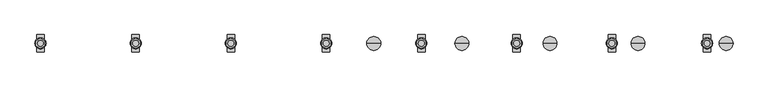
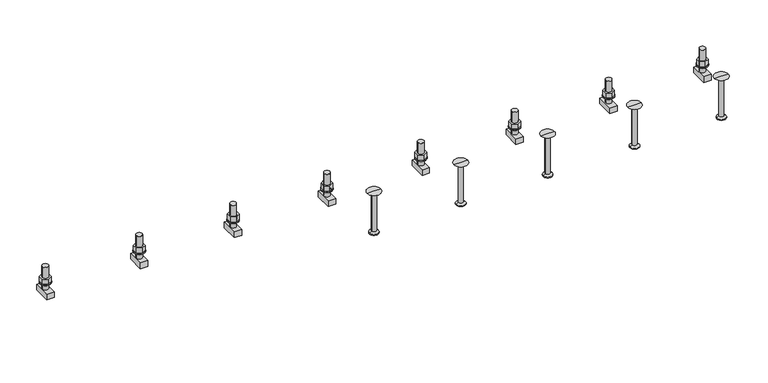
"""IFC4 building model written with IfcOpenShell, lengths in millimetres: fastener geometry, JTA-K JORDAHL® AnchorChannels : JTA-K L=3000 mm."""

from ifc_helpers import new_model, si_unit, point, frame, frame_2d, origin, place, context, project, spatial, polyline, circle_curve, trimmed, segment, composite_curve, outline, extrude, source, transform, mapped, element, save
from ifc_brep_helpers import plane_surface, cylinder_surface, revolved_surface, advanced_brep


def fastener_14b91d63(model_context):
    return source(origin(), model_context, "Body", "SolidModel", [
        extrude(outline(polyline([(2608.3333333, -17.3205081), (2593.3333333, -8.660254), (2593.3333333, 8.660254), (2608.3333333, 17.3205081), (2623.3333333, 8.660254), (2623.3333333, -8.660254), (2608.3333333, -17.3205081)]), holes=[composite_curve([segment(trimmed(circle_curve(frame_2d((2608.3333333, 0.0)), 10.0), [point((2598.3333333, 0.0))], [point((2618.3333333, 0.0))], True, "CARTESIAN"), True, "CONTINUOUS"), segment(trimmed(circle_curve(frame_2d((2608.3333333, 0.0)), 10.0), [point((2618.3333333, 0.0))], [point((2598.3333333, 0.0))], True, "CARTESIAN"), True, "CONTINUOUS")], self_intersect=False)]), frame((0.0, 0.0, 18.0), z_axis=(0.0, 0.0, 1.0), x_axis=(1.0, 0.0, 0.0)), (0.0, 0.0, 1.0), 18.0),
        extrude(outline(composite_curve([segment(trimmed(circle_curve(frame_2d((2608.3333333, 0.0)), 18.5), [point((2589.8333333, 0.0))], [point((2626.8333333, 0.0))], False, "CARTESIAN"), True, "CONTINUOUS"), segment(trimmed(circle_curve(frame_2d((2608.3333333, 0.0)), 18.5), [point((2626.8333333, 0.0))], [point((2589.8333333, 0.0))], False, "CARTESIAN"), True, "CONTINUOUS")], self_intersect=False), holes=[composite_curve([segment(trimmed(circle_curve(frame_2d((2608.3333333, 0.0)), 10.5), [point((2597.8333333, 0.0))], [point((2618.8333333, 0.0))], True, "CARTESIAN"), True, "CONTINUOUS"), segment(trimmed(circle_curve(frame_2d((2608.3333333, 0.0)), 10.5), [point((2618.8333333, 0.0))], [point((2597.8333333, 0.0))], True, "CARTESIAN"), True, "CONTINUOUS")], self_intersect=False)]), frame((0.0, 0.0, 15.0), z_axis=(0.0, 0.0, 1.0), x_axis=(1.0, 0.0, 0.0)), (0.0, 0.0, 1.0), 3.0),
        extrude(outline(polyline([(2291.6666667, -17.3205081), (2276.6666667, -8.660254), (2276.6666667, 8.660254), (2291.6666667, 17.3205081), (2306.6666667, 8.660254), (2306.6666667, -8.660254), (2291.6666667, -17.3205081)]), holes=[composite_curve([segment(trimmed(circle_curve(frame_2d((2291.6666667, 0.0)), 10.0), [point((2281.6666667, 0.0))], [point((2301.6666667, 0.0))], True, "CARTESIAN"), True, "CONTINUOUS"), segment(trimmed(circle_curve(frame_2d((2291.6666667, 0.0)), 10.0), [point((2301.6666667, 0.0))], [point((2281.6666667, 0.0))], True, "CARTESIAN"), True, "CONTINUOUS")], self_intersect=False)]), frame((0.0, 0.0, 18.0), z_axis=(0.0, 0.0, 1.0), x_axis=(1.0, 0.0, 0.0)), (0.0, 0.0, 1.0), 18.0),
        extrude(outline(composite_curve([segment(trimmed(circle_curve(frame_2d((2291.6666667, 0.0)), 18.5), [point((2273.1666667, 0.0))], [point((2310.1666667, 0.0))], False, "CARTESIAN"), True, "CONTINUOUS"), segment(trimmed(circle_curve(frame_2d((2291.6666667, 0.0)), 18.5), [point((2310.1666667, 0.0))], [point((2273.1666667, 0.0))], False, "CARTESIAN"), True, "CONTINUOUS")], self_intersect=False), holes=[composite_curve([segment(trimmed(circle_curve(frame_2d((2291.6666667, 0.0)), 10.5), [point((2281.1666667, 0.0))], [point((2302.1666667, 0.0))], True, "CARTESIAN"), True, "CONTINUOUS"), segment(trimmed(circle_curve(frame_2d((2291.6666667, 0.0)), 10.5), [point((2302.1666667, 0.0))], [point((2281.1666667, 0.0))], True, "CARTESIAN"), True, "CONTINUOUS")], self_intersect=False)]), frame((0.0, 0.0, 15.0), z_axis=(0.0, 0.0, 1.0), x_axis=(1.0, 0.0, 0.0)), (0.0, 0.0, 1.0), 3.0),
        extrude(outline(polyline([(1975.0, -17.3205081), (1960.0, -8.660254), (1960.0, 8.660254), (1975.0, 17.3205081), (1990.0, 8.660254), (1990.0, -8.660254), (1975.0, -17.3205081)]), holes=[composite_curve([segment(trimmed(circle_curve(frame_2d((1975.0, 0.0)), 10.0), [point((1965.0, 0.0))], [point((1985.0, 0.0))], True, "CARTESIAN"), True, "CONTINUOUS"), segment(trimmed(circle_curve(frame_2d((1975.0, 0.0)), 10.0), [point((1985.0, 0.0))], [point((1965.0, 0.0))], True, "CARTESIAN"), True, "CONTINUOUS")], self_intersect=False)]), frame((0.0, 0.0, 18.0), z_axis=(0.0, 0.0, 1.0), x_axis=(1.0, 0.0, 0.0)), (0.0, 0.0, 1.0), 18.0),
        extrude(outline(composite_curve([segment(trimmed(circle_curve(frame_2d((1975.0, 0.0)), 18.5), [point((1956.5, 0.0))], [point((1993.5, 0.0))], False, "CARTESIAN"), True, "CONTINUOUS"), segment(trimmed(circle_curve(frame_2d((1975.0, 0.0)), 18.5), [point((1993.5, 0.0))], [point((1956.5, 0.0))], False, "CARTESIAN"), True, "CONTINUOUS")], self_intersect=False), holes=[composite_curve([segment(trimmed(circle_curve(frame_2d((1975.0, 0.0)), 10.5), [point((1964.5, 0.0))], [point((1985.5, 0.0))], True, "CARTESIAN"), True, "CONTINUOUS"), segment(trimmed(circle_curve(frame_2d((1975.0, 0.0)), 10.5), [point((1985.5, 0.0))], [point((1964.5, 0.0))], True, "CARTESIAN"), True, "CONTINUOUS")], self_intersect=False)]), frame((0.0, 0.0, 15.0), z_axis=(0.0, 0.0, 1.0), x_axis=(1.0, 0.0, 0.0)), (0.0, 0.0, 1.0), 3.0),
        extrude(outline(polyline([(1658.3333333, -17.3205081), (1643.3333333, -8.660254), (1643.3333333, 8.660254), (1658.3333333, 17.3205081), (1673.3333333, 8.660254), (1673.3333333, -8.660254), (1658.3333333, -17.3205081)]), holes=[composite_curve([segment(trimmed(circle_curve(frame_2d((1658.3333333, 0.0)), 10.0), [point((1648.3333333, 0.0))], [point((1668.3333333, 0.0))], True, "CARTESIAN"), True, "CONTINUOUS"), segment(trimmed(circle_curve(frame_2d((1658.3333333, 0.0)), 10.0), [point((1668.3333333, 0.0))], [point((1648.3333333, 0.0))], True, "CARTESIAN"), True, "CONTINUOUS")], self_intersect=False)]), frame((0.0, 0.0, 18.0), z_axis=(0.0, 0.0, 1.0), x_axis=(1.0, 0.0, 0.0)), (0.0, 0.0, 1.0), 18.0),
        extrude(outline(composite_curve([segment(trimmed(circle_curve(frame_2d((1658.3333333, 0.0)), 18.5), [point((1639.8333333, 0.0))], [point((1676.8333333, 0.0))], False, "CARTESIAN"), True, "CONTINUOUS"), segment(trimmed(circle_curve(frame_2d((1658.3333333, 0.0)), 18.5), [point((1676.8333333, 0.0))], [point((1639.8333333, 0.0))], False, "CARTESIAN"), True, "CONTINUOUS")], self_intersect=False), holes=[composite_curve([segment(trimmed(circle_curve(frame_2d((1658.3333333, 0.0)), 10.5), [point((1647.8333333, 0.0))], [point((1668.8333333, 0.0))], True, "CARTESIAN"), True, "CONTINUOUS"), segment(trimmed(circle_curve(frame_2d((1658.3333333, 0.0)), 10.5), [point((1668.8333333, 0.0))], [point((1647.8333333, 0.0))], True, "CARTESIAN"), True, "CONTINUOUS")], self_intersect=False)]), frame((0.0, 0.0, 15.0), z_axis=(0.0, 0.0, 1.0), x_axis=(1.0, 0.0, 0.0)), (0.0, 0.0, 1.0), 3.0),
        extrude(outline(polyline([(1341.6666667, -17.3205081), (1326.6666667, -8.660254), (1326.6666667, 8.660254), (1341.6666667, 17.3205081), (1356.6666667, 8.660254), (1356.6666667, -8.660254), (1341.6666667, -17.3205081)]), holes=[composite_curve([segment(trimmed(circle_curve(frame_2d((1341.6666667, 0.0)), 10.0), [point((1331.6666667, 0.0))], [point((1351.6666667, 0.0))], True, "CARTESIAN"), True, "CONTINUOUS"), segment(trimmed(circle_curve(frame_2d((1341.6666667, 0.0)), 10.0), [point((1351.6666667, 0.0))], [point((1331.6666667, 0.0))], True, "CARTESIAN"), True, "CONTINUOUS")], self_intersect=False)]), frame((0.0, 0.0, 18.0), z_axis=(0.0, 0.0, 1.0), x_axis=(1.0, 0.0, 0.0)), (0.0, 0.0, 1.0), 18.0),
        extrude(outline(composite_curve([segment(trimmed(circle_curve(frame_2d((1341.6666667, 0.0)), 18.5), [point((1323.1666667, 0.0))], [point((1360.1666667, 0.0))], False, "CARTESIAN"), True, "CONTINUOUS"), segment(trimmed(circle_curve(frame_2d((1341.6666667, 0.0)), 18.5), [point((1360.1666667, 0.0))], [point((1323.1666667, 0.0))], False, "CARTESIAN"), True, "CONTINUOUS")], self_intersect=False), holes=[composite_curve([segment(trimmed(circle_curve(frame_2d((1341.6666667, 0.0)), 10.5), [point((1331.1666667, 0.0))], [point((1352.1666667, 0.0))], True, "CARTESIAN"), True, "CONTINUOUS"), segment(trimmed(circle_curve(frame_2d((1341.6666667, 0.0)), 10.5), [point((1352.1666667, 0.0))], [point((1331.1666667, 0.0))], True, "CARTESIAN"), True, "CONTINUOUS")], self_intersect=False)]), frame((0.0, 0.0, 15.0), z_axis=(0.0, 0.0, 1.0), x_axis=(1.0, 0.0, 0.0)), (0.0, 0.0, 1.0), 3.0),
        extrude(outline(polyline([(1025.0, -17.3205081), (1010.0, -8.660254), (1010.0, 8.660254), (1025.0, 17.3205081), (1040.0, 8.660254), (1040.0, -8.660254), (1025.0, -17.3205081)]), holes=[composite_curve([segment(trimmed(circle_curve(frame_2d((1025.0, 0.0)), 10.0), [point((1015.0, 0.0))], [point((1035.0, 0.0))], True, "CARTESIAN"), True, "CONTINUOUS"), segment(trimmed(circle_curve(frame_2d((1025.0, 0.0)), 10.0), [point((1035.0, 0.0))], [point((1015.0, 0.0))], True, "CARTESIAN"), True, "CONTINUOUS")], self_intersect=False)]), frame((0.0, 0.0, 18.0), z_axis=(0.0, 0.0, 1.0), x_axis=(1.0, 0.0, 0.0)), (0.0, 0.0, 1.0), 18.0),
        extrude(outline(composite_curve([segment(trimmed(circle_curve(frame_2d((1025.0, 0.0)), 18.5), [point((1006.5, 0.0))], [point((1043.5, 0.0))], False, "CARTESIAN"), True, "CONTINUOUS"), segment(trimmed(circle_curve(frame_2d((1025.0, 0.0)), 18.5), [point((1043.5, 0.0))], [point((1006.5, 0.0))], False, "CARTESIAN"), True, "CONTINUOUS")], self_intersect=False), holes=[composite_curve([segment(trimmed(circle_curve(frame_2d((1025.0, 0.0)), 10.5), [point((1014.5, 0.0))], [point((1035.5, 0.0))], True, "CARTESIAN"), True, "CONTINUOUS"), segment(trimmed(circle_curve(frame_2d((1025.0, 0.0)), 10.5), [point((1035.5, 0.0))], [point((1014.5, 0.0))], True, "CARTESIAN"), True, "CONTINUOUS")], self_intersect=False)]), frame((0.0, 0.0, 15.0), z_axis=(0.0, 0.0, 1.0), x_axis=(1.0, 0.0, 0.0)), (0.0, 0.0, 1.0), 3.0),
        extrude(outline(polyline([(708.3333333, -17.3205081), (693.3333333, -8.660254), (693.3333333, 8.660254), (708.3333333, 17.3205081), (723.3333333, 8.660254), (723.3333333, -8.660254), (708.3333333, -17.3205081)]), holes=[composite_curve([segment(trimmed(circle_curve(frame_2d((708.3333333, 0.0)), 10.0), [point((698.3333333, 0.0))], [point((718.3333333, 0.0))], True, "CARTESIAN"), True, "CONTINUOUS"), segment(trimmed(circle_curve(frame_2d((708.3333333, 0.0)), 10.0), [point((718.3333333, 0.0))], [point((698.3333333, 0.0))], True, "CARTESIAN"), True, "CONTINUOUS")], self_intersect=False)]), frame((0.0, 0.0, 18.0), z_axis=(0.0, 0.0, 1.0), x_axis=(1.0, 0.0, 0.0)), (0.0, 0.0, 1.0), 18.0),
        extrude(outline(composite_curve([segment(trimmed(circle_curve(frame_2d((708.3333333, 0.0)), 18.5), [point((689.8333333, 0.0))], [point((726.8333333, 0.0))], False, "CARTESIAN"), True, "CONTINUOUS"), segment(trimmed(circle_curve(frame_2d((708.3333333, 0.0)), 18.5), [point((726.8333333, 0.0))], [point((689.8333333, 0.0))], False, "CARTESIAN"), True, "CONTINUOUS")], self_intersect=False), holes=[composite_curve([segment(trimmed(circle_curve(frame_2d((708.3333333, 0.0)), 10.5), [point((697.8333333, 0.0))], [point((718.8333333, 0.0))], True, "CARTESIAN"), True, "CONTINUOUS"), segment(trimmed(circle_curve(frame_2d((708.3333333, 0.0)), 10.5), [point((718.8333333, 0.0))], [point((697.8333333, 0.0))], True, "CARTESIAN"), True, "CONTINUOUS")], self_intersect=False)]), frame((0.0, 0.0, 15.0), z_axis=(0.0, 0.0, 1.0), x_axis=(1.0, 0.0, 0.0)), (0.0, 0.0, 1.0), 3.0),
        extrude(outline(polyline([(391.6666667, -17.3205081), (376.6666667, -8.660254), (376.6666667, 8.660254), (391.6666667, 17.3205081), (406.6666667, 8.660254), (406.6666667, -8.660254), (391.6666667, -17.3205081)]), holes=[composite_curve([segment(trimmed(circle_curve(frame_2d((391.6666667, 0.0)), 10.0), [point((381.6666667, 0.0))], [point((401.6666667, 0.0))], True, "CARTESIAN"), True, "CONTINUOUS"), segment(trimmed(circle_curve(frame_2d((391.6666667, 0.0)), 10.0), [point((401.6666667, 0.0))], [point((381.6666667, 0.0))], True, "CARTESIAN"), True, "CONTINUOUS")], self_intersect=False)]), frame((0.0, 0.0, 18.0), z_axis=(0.0, 0.0, 1.0), x_axis=(1.0, 0.0, 0.0)), (0.0, 0.0, 1.0), 18.0),
        extrude(outline(composite_curve([segment(trimmed(circle_curve(frame_2d((391.6666667, 0.0)), 18.5), [point((373.1666667, 0.0))], [point((410.1666667, 0.0))], False, "CARTESIAN"), True, "CONTINUOUS"), segment(trimmed(circle_curve(frame_2d((391.6666667, 0.0)), 18.5), [point((410.1666667, 0.0))], [point((373.1666667, 0.0))], False, "CARTESIAN"), True, "CONTINUOUS")], self_intersect=False), holes=[composite_curve([segment(trimmed(circle_curve(frame_2d((391.6666667, 0.0)), 10.5), [point((381.1666667, 0.0))], [point((402.1666667, 0.0))], True, "CARTESIAN"), True, "CONTINUOUS"), segment(trimmed(circle_curve(frame_2d((391.6666667, 0.0)), 10.5), [point((402.1666667, 0.0))], [point((381.1666667, 0.0))], True, "CARTESIAN"), True, "CONTINUOUS")], self_intersect=False)]), frame((0.0, 0.0, 15.0), z_axis=(0.0, 0.0, 1.0), x_axis=(1.0, 0.0, 0.0)), (0.0, 0.0, 1.0), 3.0),
        advanced_brep(
        [(2620.8333333, -29.0, -6.0), (2620.8333333, -29.0, -26.0), (2620.8333333, 29.0, -26.0), (2620.8333333, 29.0, -6.0), (2595.8333333, -29.0, -6.0), (2595.8333333, 29.0, -6.0), (2595.8333333, 29.0, -26.0), (2595.8333333, -29.0, -26.0), (2618.3333333, 0.0, -6.0), (2598.3333333, 0.0, -6.0), (2598.3333333, 0.0, 74.0), (2618.3333333, 0.0, 74.0)],
        [
            (0, 1),
            (1, 2),
            (2, 3),
            (3, 0),
            (4, 5),
            (5, 6),
            (6, 7),
            (7, 4),
            (3, 5),
            (4, 0),
            (8, 9, circle_curve(frame((2608.3333333, 0.0, -6.0), z_axis=(0.0, 0.0, -1.0), x_axis=(1.0, 0.0, 0.0)), 10.0)),
            (9, 8, circle_curve(frame((2608.3333333, 0.0, -6.0), z_axis=(0.0, 0.0, -1.0), x_axis=(1.0, 0.0, 0.0)), 10.0)),
            (2, 6),
            (1, 7),
            (10, 11, circle_curve(frame((2608.3333333, 0.0, 74.0), z_axis=(0.0, 0.0, 1.0), x_axis=(1.0, 0.0, 0.0)), 10.0)),
            (11, 10, circle_curve(frame((2608.3333333, 0.0, 74.0), z_axis=(0.0, 0.0, 1.0), x_axis=(1.0, 0.0, 0.0)), 10.0)),
            (11, 8),
            (9, 10),
        ],
        [
            plane_surface(frame((2620.8333333, 29.0, -6.0), z_axis=(1.0, 0.0, 0.0), x_axis=(0.0, 1.0, 0.0))),
            plane_surface(frame((2595.8333333, 29.0, -6.0), z_axis=(-1.0, 0.0, 0.0), x_axis=(0.0, -1.0, 0.0))),
            plane_surface(frame((2620.8333333, -29.0, -6.0), z_axis=(0.0, 0.0, 1.0), x_axis=(-1.0, 0.0, 0.0))),
            plane_surface(frame((2620.8333333, 29.0, -6.0), z_axis=(0.0, 1.0, 0.0), x_axis=(-1.0, 0.0, 0.0))),
            plane_surface(frame((2620.8333333, 29.0, -26.0), z_axis=(0.0, 0.0, -1.0), x_axis=(-1.0, 0.0, 0.0))),
            plane_surface(frame((2620.8333333, -29.0, -26.0), z_axis=(0.0, -1.0, 0.0), x_axis=(-1.0, 0.0, 0.0))),
            plane_surface(frame((2618.3333333, 0.0, 74.0), z_axis=(0.0, 0.0, 1.0), x_axis=(0.0, -1.0, 0.0))),
            cylinder_surface(frame((2608.3333333, 0.0, -6.0), z_axis=(0.0, 0.0, 1.0), x_axis=(1.0, 0.0, 0.0)), 10.0),
        ],
        [
            (0, [[1, 2, 3, 4]]),
            (1, [[5, 6, 7, 8]]),
            (2, [[9, -5, 10, -4], [11, 12]]),
            (3, [[13, -6, -9, -3]]),
            (4, [[14, -7, -13, -2]]),
            (5, [[-10, -8, -14, -1]]),
            (6, [[15, 16]]),
            (7, [[17, -12, 18, -16]]),
            (7, [[-18, -11, -17, -15]]),
        ],
    ),
        advanced_brep(
        [(2304.1666667, -29.0, -6.0), (2304.1666667, -29.0, -26.0), (2304.1666667, 29.0, -26.0), (2304.1666667, 29.0, -6.0), (2279.1666667, -29.0, -6.0), (2279.1666667, 29.0, -6.0), (2279.1666667, 29.0, -26.0), (2279.1666667, -29.0, -26.0), (2301.6666667, 0.0, -6.0), (2281.6666667, 0.0, -6.0), (2281.6666667, 0.0, 74.0), (2301.6666667, 0.0, 74.0)],
        [
            (0, 1),
            (1, 2),
            (2, 3),
            (3, 0),
            (4, 5),
            (5, 6),
            (6, 7),
            (7, 4),
            (3, 5),
            (4, 0),
            (8, 9, circle_curve(frame((2291.6666667, 0.0, -6.0), z_axis=(0.0, 0.0, -1.0), x_axis=(1.0, 0.0, 0.0)), 10.0)),
            (9, 8, circle_curve(frame((2291.6666667, 0.0, -6.0), z_axis=(0.0, 0.0, -1.0), x_axis=(1.0, 0.0, 0.0)), 10.0)),
            (2, 6),
            (1, 7),
            (10, 11, circle_curve(frame((2291.6666667, 0.0, 74.0), z_axis=(0.0, 0.0, 1.0), x_axis=(1.0, 0.0, 0.0)), 10.0)),
            (11, 10, circle_curve(frame((2291.6666667, 0.0, 74.0), z_axis=(0.0, 0.0, 1.0), x_axis=(1.0, 0.0, 0.0)), 10.0)),
            (11, 8),
            (9, 10),
        ],
        [
            plane_surface(frame((2304.1666667, 29.0, -6.0), z_axis=(1.0, 0.0, 0.0), x_axis=(0.0, 1.0, 0.0))),
            plane_surface(frame((2279.1666667, 29.0, -6.0), z_axis=(-1.0, 0.0, 0.0), x_axis=(0.0, -1.0, 0.0))),
            plane_surface(frame((2304.1666667, -29.0, -6.0), z_axis=(0.0, 0.0, 1.0), x_axis=(-1.0, 0.0, 0.0))),
            plane_surface(frame((2304.1666667, 29.0, -6.0), z_axis=(0.0, 1.0, 0.0), x_axis=(-1.0, 0.0, 0.0))),
            plane_surface(frame((2304.1666667, 29.0, -26.0), z_axis=(0.0, 0.0, -1.0), x_axis=(-1.0, 0.0, 0.0))),
            plane_surface(frame((2304.1666667, -29.0, -26.0), z_axis=(0.0, -1.0, 0.0), x_axis=(-1.0, 0.0, 0.0))),
            plane_surface(frame((2301.6666667, 0.0, 74.0), z_axis=(0.0, 0.0, 1.0), x_axis=(0.0, -1.0, 0.0))),
            cylinder_surface(frame((2291.6666667, 0.0, -6.0), z_axis=(0.0, 0.0, 1.0), x_axis=(1.0, 0.0, 0.0)), 10.0),
        ],
        [
            (0, [[1, 2, 3, 4]]),
            (1, [[5, 6, 7, 8]]),
            (2, [[9, -5, 10, -4], [11, 12]]),
            (3, [[13, -6, -9, -3]]),
            (4, [[14, -7, -13, -2]]),
            (5, [[-10, -8, -14, -1]]),
            (6, [[15, 16]]),
            (7, [[17, -12, 18, -16]]),
            (7, [[-18, -11, -17, -15]]),
        ],
    ),
        advanced_brep(
        [(1987.5, -29.0, -6.0), (1987.5, -29.0, -26.0), (1987.5, 29.0, -26.0), (1987.5, 29.0, -6.0), (1962.5, -29.0, -6.0), (1962.5, 29.0, -6.0), (1962.5, 29.0, -26.0), (1962.5, -29.0, -26.0), (1985.0, 0.0, -6.0), (1965.0, 0.0, -6.0), (1965.0, 0.0, 74.0), (1985.0, 0.0, 74.0)],
        [
            (0, 1),
            (1, 2),
            (2, 3),
            (3, 0),
            (4, 5),
            (5, 6),
            (6, 7),
            (7, 4),
            (3, 5),
            (4, 0),
            (8, 9, circle_curve(frame((1975.0, 0.0, -6.0), z_axis=(0.0, 0.0, -1.0), x_axis=(1.0, 0.0, 0.0)), 10.0)),
            (9, 8, circle_curve(frame((1975.0, 0.0, -6.0), z_axis=(0.0, 0.0, -1.0), x_axis=(1.0, 0.0, 0.0)), 10.0)),
            (2, 6),
            (1, 7),
            (10, 11, circle_curve(frame((1975.0, 0.0, 74.0), z_axis=(0.0, 0.0, 1.0), x_axis=(1.0, 0.0, 0.0)), 10.0)),
            (11, 10, circle_curve(frame((1975.0, 0.0, 74.0), z_axis=(0.0, 0.0, 1.0), x_axis=(1.0, 0.0, 0.0)), 10.0)),
            (11, 8),
            (9, 10),
        ],
        [
            plane_surface(frame((1987.5, 29.0, -6.0), z_axis=(1.0, 0.0, 0.0), x_axis=(0.0, 1.0, 0.0))),
            plane_surface(frame((1962.5, 29.0, -6.0), z_axis=(-1.0, 0.0, 0.0), x_axis=(0.0, -1.0, 0.0))),
            plane_surface(frame((1987.5, -29.0, -6.0), z_axis=(0.0, 0.0, 1.0), x_axis=(-1.0, 0.0, 0.0))),
            plane_surface(frame((1987.5, 29.0, -6.0), z_axis=(0.0, 1.0, 0.0), x_axis=(-1.0, 0.0, 0.0))),
            plane_surface(frame((1987.5, 29.0, -26.0), z_axis=(0.0, 0.0, -1.0), x_axis=(-1.0, 0.0, 0.0))),
            plane_surface(frame((1987.5, -29.0, -26.0), z_axis=(0.0, -1.0, 0.0), x_axis=(-1.0, 0.0, 0.0))),
            plane_surface(frame((1985.0, 0.0, 74.0), z_axis=(0.0, 0.0, 1.0), x_axis=(0.0, -1.0, 0.0))),
            cylinder_surface(frame((1975.0, 0.0, -6.0), z_axis=(0.0, 0.0, 1.0), x_axis=(1.0, 0.0, 0.0)), 10.0),
        ],
        [
            (0, [[1, 2, 3, 4]]),
            (1, [[5, 6, 7, 8]]),
            (2, [[9, -5, 10, -4], [11, 12]]),
            (3, [[13, -6, -9, -3]]),
            (4, [[14, -7, -13, -2]]),
            (5, [[-10, -8, -14, -1]]),
            (6, [[15, 16]]),
            (7, [[17, -12, 18, -16]]),
            (7, [[-18, -11, -17, -15]]),
        ],
    ),
        advanced_brep(
        [(1670.8333333, -29.0, -6.0), (1670.8333333, -29.0, -26.0), (1670.8333333, 29.0, -26.0), (1670.8333333, 29.0, -6.0), (1645.8333333, -29.0, -6.0), (1645.8333333, 29.0, -6.0), (1645.8333333, 29.0, -26.0), (1645.8333333, -29.0, -26.0), (1668.3333333, 0.0, -6.0), (1648.3333333, 0.0, -6.0), (1648.3333333, 0.0, 74.0), (1668.3333333, 0.0, 74.0)],
        [
            (0, 1),
            (1, 2),
            (2, 3),
            (3, 0),
            (4, 5),
            (5, 6),
            (6, 7),
            (7, 4),
            (3, 5),
            (4, 0),
            (8, 9, circle_curve(frame((1658.3333333, 0.0, -6.0), z_axis=(0.0, 0.0, -1.0), x_axis=(1.0, 0.0, 0.0)), 10.0)),
            (9, 8, circle_curve(frame((1658.3333333, 0.0, -6.0), z_axis=(0.0, 0.0, -1.0), x_axis=(1.0, 0.0, 0.0)), 10.0)),
            (2, 6),
            (1, 7),
            (10, 11, circle_curve(frame((1658.3333333, 0.0, 74.0), z_axis=(0.0, 0.0, 1.0), x_axis=(1.0, 0.0, 0.0)), 10.0)),
            (11, 10, circle_curve(frame((1658.3333333, 0.0, 74.0), z_axis=(0.0, 0.0, 1.0), x_axis=(1.0, 0.0, 0.0)), 10.0)),
            (11, 8),
            (9, 10),
        ],
        [
            plane_surface(frame((1670.8333333, 29.0, -6.0), z_axis=(1.0, 0.0, 0.0), x_axis=(0.0, 1.0, 0.0))),
            plane_surface(frame((1645.8333333, 29.0, -6.0), z_axis=(-1.0, 0.0, 0.0), x_axis=(0.0, -1.0, 0.0))),
            plane_surface(frame((1670.8333333, -29.0, -6.0), z_axis=(0.0, 0.0, 1.0), x_axis=(-1.0, 0.0, 0.0))),
            plane_surface(frame((1670.8333333, 29.0, -6.0), z_axis=(0.0, 1.0, 0.0), x_axis=(-1.0, 0.0, 0.0))),
            plane_surface(frame((1670.8333333, 29.0, -26.0), z_axis=(0.0, 0.0, -1.0), x_axis=(-1.0, 0.0, 0.0))),
            plane_surface(frame((1670.8333333, -29.0, -26.0), z_axis=(0.0, -1.0, 0.0), x_axis=(-1.0, 0.0, 0.0))),
            plane_surface(frame((1668.3333333, 0.0, 74.0), z_axis=(0.0, 0.0, 1.0), x_axis=(0.0, -1.0, 0.0))),
            cylinder_surface(frame((1658.3333333, 0.0, -6.0), z_axis=(0.0, 0.0, 1.0), x_axis=(1.0, 0.0, 0.0)), 10.0),
        ],
        [
            (0, [[1, 2, 3, 4]]),
            (1, [[5, 6, 7, 8]]),
            (2, [[9, -5, 10, -4], [11, 12]]),
            (3, [[13, -6, -9, -3]]),
            (4, [[14, -7, -13, -2]]),
            (5, [[-10, -8, -14, -1]]),
            (6, [[15, 16]]),
            (7, [[17, -12, 18, -16]]),
            (7, [[-18, -11, -17, -15]]),
        ],
    ),
        advanced_brep(
        [(1354.1666667, -29.0, -6.0), (1354.1666667, -29.0, -26.0), (1354.1666667, 29.0, -26.0), (1354.1666667, 29.0, -6.0), (1329.1666667, -29.0, -6.0), (1329.1666667, 29.0, -6.0), (1329.1666667, 29.0, -26.0), (1329.1666667, -29.0, -26.0), (1351.6666667, 0.0, -6.0), (1331.6666667, 0.0, -6.0), (1331.6666667, 0.0, 74.0), (1351.6666667, 0.0, 74.0)],
        [
            (0, 1),
            (1, 2),
            (2, 3),
            (3, 0),
            (4, 5),
            (5, 6),
            (6, 7),
            (7, 4),
            (3, 5),
            (4, 0),
            (8, 9, circle_curve(frame((1341.6666667, 0.0, -6.0), z_axis=(0.0, 0.0, -1.0), x_axis=(1.0, 0.0, 0.0)), 10.0)),
            (9, 8, circle_curve(frame((1341.6666667, 0.0, -6.0), z_axis=(0.0, 0.0, -1.0), x_axis=(1.0, 0.0, 0.0)), 10.0)),
            (2, 6),
            (1, 7),
            (10, 11, circle_curve(frame((1341.6666667, 0.0, 74.0), z_axis=(0.0, 0.0, 1.0), x_axis=(1.0, 0.0, 0.0)), 10.0)),
            (11, 10, circle_curve(frame((1341.6666667, 0.0, 74.0), z_axis=(0.0, 0.0, 1.0), x_axis=(1.0, 0.0, 0.0)), 10.0)),
            (11, 8),
            (9, 10),
        ],
        [
            plane_surface(frame((1354.1666667, 29.0, -6.0), z_axis=(1.0, 0.0, 0.0), x_axis=(0.0, 1.0, 0.0))),
            plane_surface(frame((1329.1666667, 29.0, -6.0), z_axis=(-1.0, 0.0, 0.0), x_axis=(0.0, -1.0, 0.0))),
            plane_surface(frame((1354.1666667, -29.0, -6.0), z_axis=(0.0, 0.0, 1.0), x_axis=(-1.0, 0.0, 0.0))),
            plane_surface(frame((1354.1666667, 29.0, -6.0), z_axis=(0.0, 1.0, 0.0), x_axis=(-1.0, 0.0, 0.0))),
            plane_surface(frame((1354.1666667, 29.0, -26.0), z_axis=(0.0, 0.0, -1.0), x_axis=(-1.0, 0.0, 0.0))),
            plane_surface(frame((1354.1666667, -29.0, -26.0), z_axis=(0.0, -1.0, 0.0), x_axis=(-1.0, 0.0, 0.0))),
            plane_surface(frame((1351.6666667, 0.0, 74.0), z_axis=(0.0, 0.0, 1.0), x_axis=(0.0, -1.0, 0.0))),
            cylinder_surface(frame((1341.6666667, 0.0, -6.0), z_axis=(0.0, 0.0, 1.0), x_axis=(1.0, 0.0, 0.0)), 10.0),
        ],
        [
            (0, [[1, 2, 3, 4]]),
            (1, [[5, 6, 7, 8]]),
            (2, [[9, -5, 10, -4], [11, 12]]),
            (3, [[13, -6, -9, -3]]),
            (4, [[14, -7, -13, -2]]),
            (5, [[-10, -8, -14, -1]]),
            (6, [[15, 16]]),
            (7, [[17, -12, 18, -16]]),
            (7, [[-18, -11, -17, -15]]),
        ],
    ),
        advanced_brep(
        [(1037.5, -29.0, -6.0), (1037.5, -29.0, -26.0), (1037.5, 29.0, -26.0), (1037.5, 29.0, -6.0), (1012.5, -29.0, -6.0), (1012.5, 29.0, -6.0), (1012.5, 29.0, -26.0), (1012.5, -29.0, -26.0), (1035.0, 0.0, -6.0), (1015.0, 0.0, -6.0), (1015.0, 0.0, 74.0), (1035.0, 0.0, 74.0)],
        [
            (0, 1),
            (1, 2),
            (2, 3),
            (3, 0),
            (4, 5),
            (5, 6),
            (6, 7),
            (7, 4),
            (3, 5),
            (4, 0),
            (8, 9, circle_curve(frame((1025.0, 0.0, -6.0), z_axis=(0.0, 0.0, -1.0), x_axis=(1.0, 0.0, 0.0)), 10.0)),
            (9, 8, circle_curve(frame((1025.0, 0.0, -6.0), z_axis=(0.0, 0.0, -1.0), x_axis=(1.0, 0.0, 0.0)), 10.0)),
            (2, 6),
            (1, 7),
            (10, 11, circle_curve(frame((1025.0, 0.0, 74.0), z_axis=(0.0, 0.0, 1.0), x_axis=(1.0, 0.0, 0.0)), 10.0)),
            (11, 10, circle_curve(frame((1025.0, 0.0, 74.0), z_axis=(0.0, 0.0, 1.0), x_axis=(1.0, 0.0, 0.0)), 10.0)),
            (11, 8),
            (9, 10),
        ],
        [
            plane_surface(frame((1037.5, 29.0, -6.0), z_axis=(1.0, 0.0, 0.0), x_axis=(0.0, 1.0, 0.0))),
            plane_surface(frame((1012.5, 29.0, -6.0), z_axis=(-1.0, 0.0, 0.0), x_axis=(0.0, -1.0, 0.0))),
            plane_surface(frame((1037.5, -29.0, -6.0), z_axis=(0.0, 0.0, 1.0), x_axis=(-1.0, 0.0, 0.0))),
            plane_surface(frame((1037.5, 29.0, -6.0), z_axis=(0.0, 1.0, 0.0), x_axis=(-1.0, 0.0, 0.0))),
            plane_surface(frame((1037.5, 29.0, -26.0), z_axis=(0.0, 0.0, -1.0), x_axis=(-1.0, 0.0, 0.0))),
            plane_surface(frame((1037.5, -29.0, -26.0), z_axis=(0.0, -1.0, 0.0), x_axis=(-1.0, 0.0, 0.0))),
            plane_surface(frame((1035.0, 0.0, 74.0), z_axis=(0.0, 0.0, 1.0), x_axis=(0.0, -1.0, 0.0))),
            cylinder_surface(frame((1025.0, 0.0, -6.0), z_axis=(0.0, 0.0, 1.0), x_axis=(1.0, 0.0, 0.0)), 10.0),
        ],
        [
            (0, [[1, 2, 3, 4]]),
            (1, [[5, 6, 7, 8]]),
            (2, [[9, -5, 10, -4], [11, 12]]),
            (3, [[13, -6, -9, -3]]),
            (4, [[14, -7, -13, -2]]),
            (5, [[-10, -8, -14, -1]]),
            (6, [[15, 16]]),
            (7, [[17, -12, 18, -16]]),
            (7, [[-18, -11, -17, -15]]),
        ],
    ),
        advanced_brep(
        [(720.8333333, -29.0, -6.0), (720.8333333, -29.0, -26.0), (720.8333333, 29.0, -26.0), (720.8333333, 29.0, -6.0), (695.8333333, -29.0, -6.0), (695.8333333, 29.0, -6.0), (695.8333333, 29.0, -26.0), (695.8333333, -29.0, -26.0), (718.3333333, 0.0, -6.0), (698.3333333, 0.0, -6.0), (698.3333333, 0.0, 74.0), (718.3333333, 0.0, 74.0)],
        [
            (0, 1),
            (1, 2),
            (2, 3),
            (3, 0),
            (4, 5),
            (5, 6),
            (6, 7),
            (7, 4),
            (3, 5),
            (4, 0),
            (8, 9, circle_curve(frame((708.3333333, 0.0, -6.0), z_axis=(0.0, 0.0, -1.0), x_axis=(1.0, 0.0, 0.0)), 10.0)),
            (9, 8, circle_curve(frame((708.3333333, 0.0, -6.0), z_axis=(0.0, 0.0, -1.0), x_axis=(1.0, 0.0, 0.0)), 10.0)),
            (2, 6),
            (1, 7),
            (10, 11, circle_curve(frame((708.3333333, 0.0, 74.0), z_axis=(0.0, 0.0, 1.0), x_axis=(1.0, 0.0, 0.0)), 10.0)),
            (11, 10, circle_curve(frame((708.3333333, 0.0, 74.0), z_axis=(0.0, 0.0, 1.0), x_axis=(1.0, 0.0, 0.0)), 10.0)),
            (11, 8),
            (9, 10),
        ],
        [
            plane_surface(frame((720.8333333, 29.0, -6.0), z_axis=(1.0, 0.0, 0.0), x_axis=(0.0, 1.0, 0.0))),
            plane_surface(frame((695.8333333, 29.0, -6.0), z_axis=(-1.0, 0.0, 0.0), x_axis=(0.0, -1.0, 0.0))),
            plane_surface(frame((720.8333333, -29.0, -6.0), z_axis=(0.0, 0.0, 1.0), x_axis=(-1.0, 0.0, 0.0))),
            plane_surface(frame((720.8333333, 29.0, -6.0), z_axis=(0.0, 1.0, 0.0), x_axis=(-1.0, 0.0, 0.0))),
            plane_surface(frame((720.8333333, 29.0, -26.0), z_axis=(0.0, 0.0, -1.0), x_axis=(-1.0, 0.0, 0.0))),
            plane_surface(frame((720.8333333, -29.0, -26.0), z_axis=(0.0, -1.0, 0.0), x_axis=(-1.0, 0.0, 0.0))),
            plane_surface(frame((718.3333333, 0.0, 74.0), z_axis=(0.0, 0.0, 1.0), x_axis=(0.0, -1.0, 0.0))),
            cylinder_surface(frame((708.3333333, 0.0, -6.0), z_axis=(0.0, 0.0, 1.0), x_axis=(1.0, 0.0, 0.0)), 10.0),
        ],
        [
            (0, [[1, 2, 3, 4]]),
            (1, [[5, 6, 7, 8]]),
            (2, [[9, -5, 10, -4], [11, 12]]),
            (3, [[13, -6, -9, -3]]),
            (4, [[14, -7, -13, -2]]),
            (5, [[-10, -8, -14, -1]]),
            (6, [[15, 16]]),
            (7, [[17, -12, 18, -16]]),
            (7, [[-18, -11, -17, -15]]),
        ],
    ),
        advanced_brep(
        [(404.1666667, -29.0, -6.0), (404.1666667, -29.0, -26.0), (404.1666667, 29.0, -26.0), (404.1666667, 29.0, -6.0), (379.1666667, -29.0, -6.0), (379.1666667, 29.0, -6.0), (379.1666667, 29.0, -26.0), (379.1666667, -29.0, -26.0), (401.6666667, 0.0, -6.0), (381.6666667, 0.0, -6.0), (381.6666667, 0.0, 74.0), (401.6666667, 0.0, 74.0)],
        [
            (0, 1),
            (1, 2),
            (2, 3),
            (3, 0),
            (4, 5),
            (5, 6),
            (6, 7),
            (7, 4),
            (3, 5),
            (4, 0),
            (8, 9, circle_curve(frame((391.6666667, 0.0, -6.0), z_axis=(0.0, 0.0, -1.0), x_axis=(1.0, 0.0, 0.0)), 10.0)),
            (9, 8, circle_curve(frame((391.6666667, 0.0, -6.0), z_axis=(0.0, 0.0, -1.0), x_axis=(1.0, 0.0, 0.0)), 10.0)),
            (2, 6),
            (1, 7),
            (10, 11, circle_curve(frame((391.6666667, 0.0, 74.0), z_axis=(0.0, 0.0, 1.0), x_axis=(1.0, 0.0, 0.0)), 10.0)),
            (11, 10, circle_curve(frame((391.6666667, 0.0, 74.0), z_axis=(0.0, 0.0, 1.0), x_axis=(1.0, 0.0, 0.0)), 10.0)),
            (11, 8),
            (9, 10),
        ],
        [
            plane_surface(frame((404.1666667, 29.0, -6.0), z_axis=(1.0, 0.0, 0.0), x_axis=(0.0, 1.0, 0.0))),
            plane_surface(frame((379.1666667, 29.0, -6.0), z_axis=(-1.0, 0.0, 0.0), x_axis=(0.0, -1.0, 0.0))),
            plane_surface(frame((404.1666667, -29.0, -6.0), z_axis=(0.0, 0.0, 1.0), x_axis=(-1.0, 0.0, 0.0))),
            plane_surface(frame((404.1666667, 29.0, -6.0), z_axis=(0.0, 1.0, 0.0), x_axis=(-1.0, 0.0, 0.0))),
            plane_surface(frame((404.1666667, 29.0, -26.0), z_axis=(0.0, 0.0, -1.0), x_axis=(-1.0, 0.0, 0.0))),
            plane_surface(frame((404.1666667, -29.0, -26.0), z_axis=(0.0, -1.0, 0.0), x_axis=(-1.0, 0.0, 0.0))),
            plane_surface(frame((401.6666667, 0.0, 74.0), z_axis=(0.0, 0.0, 1.0), x_axis=(0.0, -1.0, 0.0))),
            cylinder_surface(frame((391.6666667, 0.0, -6.0), z_axis=(0.0, 0.0, 1.0), x_axis=(1.0, 0.0, 0.0)), 10.0),
        ],
        [
            (0, [[1, 2, 3, 4]]),
            (1, [[5, 6, 7, 8]]),
            (2, [[9, -5, 10, -4], [11, 12]]),
            (3, [[13, -6, -9, -3]]),
            (4, [[14, -7, -13, -2]]),
            (5, [[-10, -8, -14, -1]]),
            (6, [[15, 16]]),
            (7, [[17, -12, 18, -16]]),
            (7, [[-18, -11, -17, -15]]),
        ],
    ),
        advanced_brep(
        [(2672.0, 0.0, -48.0), (2649.0, 0.0, -48.0), (2695.0, 0.0, -48.0), (2656.5, 0.0, -195.0), (2672.0, 0.0, -195.0), (2687.5, 0.0, -195.0), (2656.5, 0.0, -193.0), (2687.5, 0.0, -193.0), (2664.2, 0.0, -188.5544029), (2679.8, 0.0, -188.5544029), (2664.2, 0.0, -52.0), (2679.8, 0.0, -52.0)],
        [
            (0, 1),
            (1, 2, circle_curve(frame((2672.0, 0.0, -48.0), z_axis=(0.0, 0.0, 1.0), x_axis=(1.0, 0.0, 0.0)), 23.0)),
            (2, 0),
            (2, 1, circle_curve(frame((2672.0, 0.0, -48.0), z_axis=(0.0, 0.0, 1.0), x_axis=(1.0, 0.0, 0.0)), 23.0)),
            (3, 4),
            (4, 5),
            (5, 3, circle_curve(frame((2672.0, 0.0, -195.0), z_axis=(0.0, 0.0, -1.0), x_axis=(1.0, 0.0, 0.0)), 15.5)),
            (3, 5, circle_curve(frame((2672.0, 0.0, -195.0), z_axis=(0.0, 0.0, -1.0), x_axis=(1.0, 0.0, 0.0)), 15.5)),
            (6, 3),
            (5, 7),
            (7, 6, circle_curve(frame((2672.0, 0.0, -193.0), z_axis=(0.0, 0.0, -1.0), x_axis=(1.0, 0.0, 0.0)), 15.5)),
            (6, 7, circle_curve(frame((2672.0, 0.0, -193.0), z_axis=(0.0, 0.0, -1.0), x_axis=(1.0, 0.0, 0.0)), 15.5)),
            (8, 6),
            (7, 9),
            (9, 8, circle_curve(frame((2672.0, 0.0, -188.5544029), z_axis=(0.0, 0.0, -1.0), x_axis=(1.0, 0.0, 0.0)), 7.8)),
            (8, 9, circle_curve(frame((2672.0, 0.0, -188.5544029), z_axis=(0.0, 0.0, -1.0), x_axis=(1.0, 0.0, 0.0)), 7.8)),
            (10, 8),
            (9, 11),
            (11, 10, circle_curve(frame((2672.0, 0.0, -52.0), z_axis=(0.0, 0.0, -1.0), x_axis=(1.0, 0.0, 0.0)), 7.8)),
            (10, 11, circle_curve(frame((2672.0, 0.0, -52.0), z_axis=(0.0, 0.0, -1.0), x_axis=(1.0, 0.0, 0.0)), 7.8)),
            (1, 10),
            (11, 2),
        ],
        [
            plane_surface(frame((2672.0, 0.0, -48.0), z_axis=(0.0, 0.0, 1.0), x_axis=(1.0, 0.0, 0.0))),
            plane_surface(frame((2672.0, 0.0, -195.0), z_axis=(0.0, 0.0, -1.0), x_axis=(1.0, 0.0, 0.0))),
            cylinder_surface(frame((2672.0, 0.0, 2361.3150031), z_axis=(0.0, 0.0, 1.0), x_axis=(1.0, 0.0, 0.0)), 15.5),
            revolved_surface(polyline([(2687.5, 0.0, -193.0), (2679.8, 0.0, -188.5544029)]), (2672.0, 0.0, 2361.3150031), (0.0, 0.0, 1.0)),
            cylinder_surface(frame((2672.0, 0.0, 2361.3150031), z_axis=(0.0, 0.0, 1.0), x_axis=(1.0, 0.0, 0.0)), 7.8),
            revolved_surface(polyline([(2679.8, 0.0, -52.0), (2695.0, 0.0, -48.0)]), (2672.0, 0.0, 2361.3150031), (0.0, 0.0, 1.0)),
        ],
        [
            (0, [[1, 2, 3]]),
            (0, [[-3, 4, -1]]),
            (1, [[5, 6, 7]]),
            (1, [[-6, -5, 8]]),
            (2, [[9, -7, 10, 11]]),
            (2, [[-10, -8, -9, 12]]),
            (3, [[13, -11, 14, 15]]),
            (3, [[-14, -12, -13, 16]]),
            (4, [[17, -15, 18, 19]]),
            (4, [[-18, -16, -17, 20]]),
            (5, [[21, -19, 22, -2]]),
            (5, [[-22, -20, -21, -4]]),
        ],
    ),
        advanced_brep(
        [(2379.0, 0.0, -48.0), (2356.0, 0.0, -48.0), (2402.0, 0.0, -48.0), (2363.5, 0.0, -195.0), (2379.0, 0.0, -195.0), (2394.5, 0.0, -195.0), (2363.5, 0.0, -193.0), (2394.5, 0.0, -193.0), (2371.2, 0.0, -188.5544029), (2386.8, 0.0, -188.5544029), (2371.2, 0.0, -52.0), (2386.8, 0.0, -52.0)],
        [
            (0, 1),
            (1, 2, circle_curve(frame((2379.0, 0.0, -48.0), z_axis=(0.0, 0.0, 1.0), x_axis=(1.0, 0.0, 0.0)), 23.0)),
            (2, 0),
            (2, 1, circle_curve(frame((2379.0, 0.0, -48.0), z_axis=(0.0, 0.0, 1.0), x_axis=(1.0, 0.0, 0.0)), 23.0)),
            (3, 4),
            (4, 5),
            (5, 3, circle_curve(frame((2379.0, 0.0, -195.0), z_axis=(0.0, 0.0, -1.0), x_axis=(1.0, 0.0, 0.0)), 15.5)),
            (3, 5, circle_curve(frame((2379.0, 0.0, -195.0), z_axis=(0.0, 0.0, -1.0), x_axis=(1.0, 0.0, 0.0)), 15.5)),
            (6, 3),
            (5, 7),
            (7, 6, circle_curve(frame((2379.0, 0.0, -193.0), z_axis=(0.0, 0.0, -1.0), x_axis=(1.0, 0.0, 0.0)), 15.5)),
            (6, 7, circle_curve(frame((2379.0, 0.0, -193.0), z_axis=(0.0, 0.0, -1.0), x_axis=(1.0, 0.0, 0.0)), 15.5)),
            (8, 6),
            (7, 9),
            (9, 8, circle_curve(frame((2379.0, 0.0, -188.5544029), z_axis=(0.0, 0.0, -1.0), x_axis=(1.0, 0.0, 0.0)), 7.8)),
            (8, 9, circle_curve(frame((2379.0, 0.0, -188.5544029), z_axis=(0.0, 0.0, -1.0), x_axis=(1.0, 0.0, 0.0)), 7.8)),
            (10, 8),
            (9, 11),
            (11, 10, circle_curve(frame((2379.0, 0.0, -52.0), z_axis=(0.0, 0.0, -1.0), x_axis=(1.0, 0.0, 0.0)), 7.8)),
            (10, 11, circle_curve(frame((2379.0, 0.0, -52.0), z_axis=(0.0, 0.0, -1.0), x_axis=(1.0, 0.0, 0.0)), 7.8)),
            (1, 10),
            (11, 2),
        ],
        [
            plane_surface(frame((2379.0, 0.0, -48.0), z_axis=(0.0, 0.0, 1.0), x_axis=(1.0, 0.0, 0.0))),
            plane_surface(frame((2379.0, 0.0, -195.0), z_axis=(0.0, 0.0, -1.0), x_axis=(1.0, 0.0, 0.0))),
            cylinder_surface(frame((2379.0, 0.0, 2361.3150031), z_axis=(0.0, 0.0, 1.0), x_axis=(1.0, 0.0, 0.0)), 15.5),
            revolved_surface(polyline([(2394.5, 0.0, -193.0), (2386.8, 0.0, -188.5544029)]), (2379.0, 0.0, 2361.3150031), (0.0, 0.0, 1.0)),
            cylinder_surface(frame((2379.0, 0.0, 2361.3150031), z_axis=(0.0, 0.0, 1.0), x_axis=(1.0, 0.0, 0.0)), 7.8),
            revolved_surface(polyline([(2386.8, 0.0, -52.0), (2402.0, 0.0, -48.0)]), (2379.0, 0.0, 2361.3150031), (0.0, 0.0, 1.0)),
        ],
        [
            (0, [[1, 2, 3]]),
            (0, [[-3, 4, -1]]),
            (1, [[5, 6, 7]]),
            (1, [[-6, -5, 8]]),
            (2, [[9, -7, 10, 11]]),
            (2, [[-10, -8, -9, 12]]),
            (3, [[13, -11, 14, 15]]),
            (3, [[-14, -12, -13, 16]]),
            (4, [[17, -15, 18, 19]]),
            (4, [[-18, -16, -17, 20]]),
            (5, [[21, -19, 22, -2]]),
            (5, [[-22, -20, -21, -4]]),
        ],
    ),
        advanced_brep(
        [(2086.0, 0.0, -48.0), (2063.0, 0.0, -48.0), (2109.0, 0.0, -48.0), (2070.5, 0.0, -195.0), (2086.0, 0.0, -195.0), (2101.5, 0.0, -195.0), (2070.5, 0.0, -193.0), (2101.5, 0.0, -193.0), (2078.2, 0.0, -188.5544029), (2093.8, 0.0, -188.5544029), (2078.2, 0.0, -52.0), (2093.8, 0.0, -52.0)],
        [
            (0, 1),
            (1, 2, circle_curve(frame((2086.0, 0.0, -48.0), z_axis=(0.0, 0.0, 1.0), x_axis=(1.0, 0.0, 0.0)), 23.0)),
            (2, 0),
            (2, 1, circle_curve(frame((2086.0, 0.0, -48.0), z_axis=(0.0, 0.0, 1.0), x_axis=(1.0, 0.0, 0.0)), 23.0)),
            (3, 4),
            (4, 5),
            (5, 3, circle_curve(frame((2086.0, 0.0, -195.0), z_axis=(0.0, 0.0, -1.0), x_axis=(1.0, 0.0, 0.0)), 15.5)),
            (3, 5, circle_curve(frame((2086.0, 0.0, -195.0), z_axis=(0.0, 0.0, -1.0), x_axis=(1.0, 0.0, 0.0)), 15.5)),
            (6, 3),
            (5, 7),
            (7, 6, circle_curve(frame((2086.0, 0.0, -193.0), z_axis=(0.0, 0.0, -1.0), x_axis=(1.0, 0.0, 0.0)), 15.5)),
            (6, 7, circle_curve(frame((2086.0, 0.0, -193.0), z_axis=(0.0, 0.0, -1.0), x_axis=(1.0, 0.0, 0.0)), 15.5)),
            (8, 6),
            (7, 9),
            (9, 8, circle_curve(frame((2086.0, 0.0, -188.5544029), z_axis=(0.0, 0.0, -1.0), x_axis=(1.0, 0.0, 0.0)), 7.8)),
            (8, 9, circle_curve(frame((2086.0, 0.0, -188.5544029), z_axis=(0.0, 0.0, -1.0), x_axis=(1.0, 0.0, 0.0)), 7.8)),
            (10, 8),
            (9, 11),
            (11, 10, circle_curve(frame((2086.0, 0.0, -52.0), z_axis=(0.0, 0.0, -1.0), x_axis=(1.0, 0.0, 0.0)), 7.8)),
            (10, 11, circle_curve(frame((2086.0, 0.0, -52.0), z_axis=(0.0, 0.0, -1.0), x_axis=(1.0, 0.0, 0.0)), 7.8)),
            (1, 10),
            (11, 2),
        ],
        [
            plane_surface(frame((2086.0, 0.0, -48.0), z_axis=(0.0, 0.0, 1.0), x_axis=(1.0, 0.0, 0.0))),
            plane_surface(frame((2086.0, 0.0, -195.0), z_axis=(0.0, 0.0, -1.0), x_axis=(1.0, 0.0, 0.0))),
            cylinder_surface(frame((2086.0, 0.0, 2361.3150031), z_axis=(0.0, 0.0, 1.0), x_axis=(1.0, 0.0, 0.0)), 15.5),
            revolved_surface(polyline([(2101.5, 0.0, -193.0), (2093.8, 0.0, -188.5544029)]), (2086.0, 0.0, 2361.3150031), (0.0, 0.0, 1.0)),
            cylinder_surface(frame((2086.0, 0.0, 2361.3150031), z_axis=(0.0, 0.0, 1.0), x_axis=(1.0, 0.0, 0.0)), 7.8),
            revolved_surface(polyline([(2093.8, 0.0, -52.0), (2109.0, 0.0, -48.0)]), (2086.0, 0.0, 2361.3150031), (0.0, 0.0, 1.0)),
        ],
        [
            (0, [[1, 2, 3]]),
            (0, [[-3, 4, -1]]),
            (1, [[5, 6, 7]]),
            (1, [[-6, -5, 8]]),
            (2, [[9, -7, 10, 11]]),
            (2, [[-10, -8, -9, 12]]),
            (3, [[13, -11, 14, 15]]),
            (3, [[-14, -12, -13, 16]]),
            (4, [[17, -15, 18, 19]]),
            (4, [[-18, -16, -17, 20]]),
            (5, [[21, -19, 22, -2]]),
            (5, [[-22, -20, -21, -4]]),
        ],
    ),
        advanced_brep(
        [(1793.0, 0.0, -48.0), (1770.0, 0.0, -48.0), (1816.0, 0.0, -48.0), (1777.5, 0.0, -195.0), (1793.0, 0.0, -195.0), (1808.5, 0.0, -195.0), (1777.5, 0.0, -193.0), (1808.5, 0.0, -193.0), (1785.2, 0.0, -188.5544029), (1800.8, 0.0, -188.5544029), (1785.2, 0.0, -52.0), (1800.8, 0.0, -52.0)],
        [
            (0, 1),
            (1, 2, circle_curve(frame((1793.0, 0.0, -48.0), z_axis=(0.0, 0.0, 1.0), x_axis=(1.0, 0.0, 0.0)), 23.0)),
            (2, 0),
            (2, 1, circle_curve(frame((1793.0, 0.0, -48.0), z_axis=(0.0, 0.0, 1.0), x_axis=(1.0, 0.0, 0.0)), 23.0)),
            (3, 4),
            (4, 5),
            (5, 3, circle_curve(frame((1793.0, 0.0, -195.0), z_axis=(0.0, 0.0, -1.0), x_axis=(1.0, 0.0, 0.0)), 15.5)),
            (3, 5, circle_curve(frame((1793.0, 0.0, -195.0), z_axis=(0.0, 0.0, -1.0), x_axis=(1.0, 0.0, 0.0)), 15.5)),
            (6, 3),
            (5, 7),
            (7, 6, circle_curve(frame((1793.0, 0.0, -193.0), z_axis=(0.0, 0.0, -1.0), x_axis=(1.0, 0.0, 0.0)), 15.5)),
            (6, 7, circle_curve(frame((1793.0, 0.0, -193.0), z_axis=(0.0, 0.0, -1.0), x_axis=(1.0, 0.0, 0.0)), 15.5)),
            (8, 6),
            (7, 9),
            (9, 8, circle_curve(frame((1793.0, 0.0, -188.5544029), z_axis=(0.0, 0.0, -1.0), x_axis=(1.0, 0.0, 0.0)), 7.8)),
            (8, 9, circle_curve(frame((1793.0, 0.0, -188.5544029), z_axis=(0.0, 0.0, -1.0), x_axis=(1.0, 0.0, 0.0)), 7.8)),
            (10, 8),
            (9, 11),
            (11, 10, circle_curve(frame((1793.0, 0.0, -52.0), z_axis=(0.0, 0.0, -1.0), x_axis=(1.0, 0.0, 0.0)), 7.8)),
            (10, 11, circle_curve(frame((1793.0, 0.0, -52.0), z_axis=(0.0, 0.0, -1.0), x_axis=(1.0, 0.0, 0.0)), 7.8)),
            (1, 10),
            (11, 2),
        ],
        [
            plane_surface(frame((1793.0, 0.0, -48.0), z_axis=(0.0, 0.0, 1.0), x_axis=(1.0, 0.0, 0.0))),
            plane_surface(frame((1793.0, 0.0, -195.0), z_axis=(0.0, 0.0, -1.0), x_axis=(1.0, 0.0, 0.0))),
            cylinder_surface(frame((1793.0, 0.0, 2361.3150031), z_axis=(0.0, 0.0, 1.0), x_axis=(1.0, 0.0, 0.0)), 15.5),
            revolved_surface(polyline([(1808.5, 0.0, -193.0), (1800.8, 0.0, -188.5544029)]), (1793.0, 0.0, 2361.3150031), (0.0, 0.0, 1.0)),
            cylinder_surface(frame((1793.0, 0.0, 2361.3150031), z_axis=(0.0, 0.0, 1.0), x_axis=(1.0, 0.0, 0.0)), 7.8),
            revolved_surface(polyline([(1800.8, 0.0, -52.0), (1816.0, 0.0, -48.0)]), (1793.0, 0.0, 2361.3150031), (0.0, 0.0, 1.0)),
        ],
        [
            (0, [[1, 2, 3]]),
            (0, [[-3, 4, -1]]),
            (1, [[5, 6, 7]]),
            (1, [[-6, -5, 8]]),
            (2, [[9, -7, 10, 11]]),
            (2, [[-10, -8, -9, 12]]),
            (3, [[13, -11, 14, 15]]),
            (3, [[-14, -12, -13, 16]]),
            (4, [[17, -15, 18, 19]]),
            (4, [[-18, -16, -17, 20]]),
            (5, [[21, -19, 22, -2]]),
            (5, [[-22, -20, -21, -4]]),
        ],
    ),
        advanced_brep(
        [(1500.0, 0.0, -48.0), (1477.0, 0.0, -48.0), (1523.0, 0.0, -48.0), (1484.5, 0.0, -195.0), (1500.0, 0.0, -195.0), (1515.5, 0.0, -195.0), (1484.5, 0.0, -193.0), (1515.5, 0.0, -193.0), (1492.2, 0.0, -188.5544029), (1507.8, 0.0, -188.5544029), (1492.2, 0.0, -52.0), (1507.8, 0.0, -52.0)],
        [
            (0, 1),
            (1, 2, circle_curve(frame((1500.0, 0.0, -48.0), z_axis=(0.0, 0.0, 1.0), x_axis=(1.0, 0.0, 0.0)), 23.0)),
            (2, 0),
            (2, 1, circle_curve(frame((1500.0, 0.0, -48.0), z_axis=(0.0, 0.0, 1.0), x_axis=(1.0, 0.0, 0.0)), 23.0)),
            (3, 4),
            (4, 5),
            (5, 3, circle_curve(frame((1500.0, 0.0, -195.0), z_axis=(0.0, 0.0, -1.0), x_axis=(1.0, 0.0, 0.0)), 15.5)),
            (3, 5, circle_curve(frame((1500.0, 0.0, -195.0), z_axis=(0.0, 0.0, -1.0), x_axis=(1.0, 0.0, 0.0)), 15.5)),
            (6, 3),
            (5, 7),
            (7, 6, circle_curve(frame((1500.0, 0.0, -193.0), z_axis=(0.0, 0.0, -1.0), x_axis=(1.0, 0.0, 0.0)), 15.5)),
            (6, 7, circle_curve(frame((1500.0, 0.0, -193.0), z_axis=(0.0, 0.0, -1.0), x_axis=(1.0, 0.0, 0.0)), 15.5)),
            (8, 6),
            (7, 9),
            (9, 8, circle_curve(frame((1500.0, 0.0, -188.5544029), z_axis=(0.0, 0.0, -1.0), x_axis=(1.0, 0.0, 0.0)), 7.8)),
            (8, 9, circle_curve(frame((1500.0, 0.0, -188.5544029), z_axis=(0.0, 0.0, -1.0), x_axis=(1.0, 0.0, 0.0)), 7.8)),
            (10, 8),
            (9, 11),
            (11, 10, circle_curve(frame((1500.0, 0.0, -52.0), z_axis=(0.0, 0.0, -1.0), x_axis=(1.0, 0.0, 0.0)), 7.8)),
            (10, 11, circle_curve(frame((1500.0, 0.0, -52.0), z_axis=(0.0, 0.0, -1.0), x_axis=(1.0, 0.0, 0.0)), 7.8)),
            (1, 10),
            (11, 2),
        ],
        [
            plane_surface(frame((1500.0, 0.0, -48.0), z_axis=(0.0, 0.0, 1.0), x_axis=(1.0, 0.0, 0.0))),
            plane_surface(frame((1500.0, 0.0, -195.0), z_axis=(0.0, 0.0, -1.0), x_axis=(1.0, 0.0, 0.0))),
            cylinder_surface(frame((1500.0, 0.0, 2361.3150031), z_axis=(0.0, 0.0, 1.0), x_axis=(1.0, 0.0, 0.0)), 15.5),
            revolved_surface(polyline([(1515.5, 0.0, -193.0), (1507.8, 0.0, -188.5544029)]), (1500.0, 0.0, 2361.3150031), (0.0, 0.0, 1.0)),
            cylinder_surface(frame((1500.0, 0.0, 2361.3150031), z_axis=(0.0, 0.0, 1.0), x_axis=(1.0, 0.0, 0.0)), 7.8),
            revolved_surface(polyline([(1507.8, 0.0, -52.0), (1523.0, 0.0, -48.0)]), (1500.0, 0.0, 2361.3150031), (0.0, 0.0, 1.0)),
        ],
        [
            (0, [[1, 2, 3]]),
            (0, [[-3, 4, -1]]),
            (1, [[5, 6, 7]]),
            (1, [[-6, -5, 8]]),
            (2, [[9, -7, 10, 11]]),
            (2, [[-10, -8, -9, 12]]),
            (3, [[13, -11, 14, 15]]),
            (3, [[-14, -12, -13, 16]]),
            (4, [[17, -15, 18, 19]]),
            (4, [[-18, -16, -17, 20]]),
            (5, [[21, -19, 22, -2]]),
            (5, [[-22, -20, -21, -4]]),
        ],
    ),
    ])


if __name__ == "__main__":
    model = new_model("IFC4")
    model_context = context("Model", 3, world=origin())
    ifc_project = project(units=[si_unit("LENGTHUNIT", "METRE", prefix="MILLI")], contexts=[model_context])
    site = spatial("IfcSite", under=ifc_project)
    building = spatial("IfcBuilding", under=site)
    placement = place(None, origin())
    fastener_shape = fastener_14b91d63(model_context)
    element("IfcFastener", 1, ObjectType="JTA-K JORDAHL® AnchorChannels : JTA-K L=3000 mm", at=placement, inside=building, context=model_context, shape_type="MappedRepresentation", body=[
        mapped(fastener_shape, transform((0.0, 0.0, 0.0), x_axis=(1.0, 0.0, 0.0), y_axis=(0.0, 1.0, 0.0), z_axis=(0.0, 0.0, 1.0))),
    ])
    save(model, "model.ifc")
